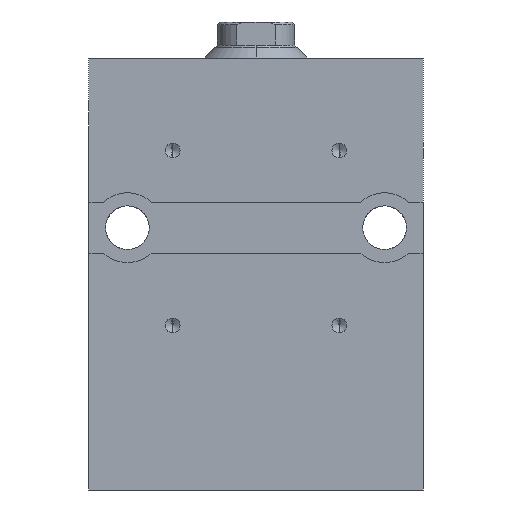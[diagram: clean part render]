
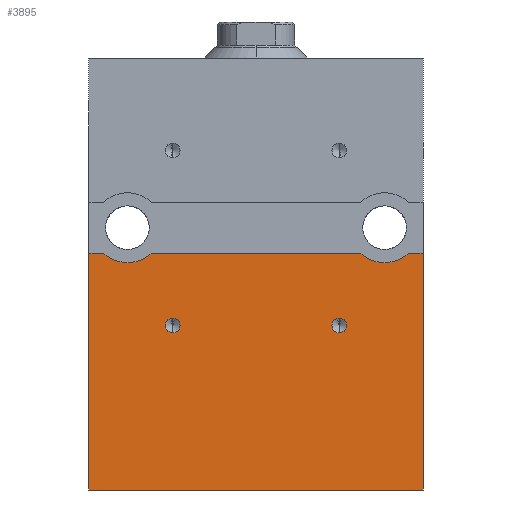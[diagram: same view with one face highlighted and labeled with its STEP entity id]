
A CAD part, left-side view. The second image highlights one B-rep face of the part: STEP entity #3895.
In plain terms, the highlighted planar face has unit normal (-1, 0, 0).
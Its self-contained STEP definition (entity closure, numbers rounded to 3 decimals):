
#33 = VECTOR ( 'NONE', #2863, 1000. ) ;
#40 = DIRECTION ( 'NONE',  ( 0., 0., 1. ) ) ;
#44 = AXIS2_PLACEMENT_3D ( 'NONE', #5454, #662, #3843 ) ;
#76 = CARTESIAN_POINT ( 'NONE',  ( -22.5, 32.5, -91. ) ) ;
#85 = DIRECTION ( 'NONE',  ( 0., -1., 0. ) ) ;
#112 = LINE ( 'NONE', #2810, #5896 ) ;
#255 = AXIS2_PLACEMENT_3D ( 'NONE', #3158, #6822, #5337 ) ;
#512 = PLANE ( 'NONE',  #4930 ) ;
#586 = ORIENTED_EDGE ( 'NONE', *, *, #3817, .F. ) ;
#601 = ORIENTED_EDGE ( 'NONE', *, *, #6843, .F. ) ;
#637 = VERTEX_POINT ( 'NONE', #3309 ) ;
#657 = ORIENTED_EDGE ( 'NONE', *, *, #4316, .F. ) ;
#662 = DIRECTION ( 'NONE',  ( -1., 0., 0. ) ) ;
#671 = VECTOR ( 'NONE', #1657, 1000. ) ;
#717 = AXIS2_PLACEMENT_3D ( 'NONE', #4885, #5371, #2184 ) ;
#745 = CARTESIAN_POINT ( 'NONE',  ( -22.5, 32.5, -45. ) ) ;
#798 = VERTEX_POINT ( 'NONE', #5791 ) ;
#804 = ORIENTED_EDGE ( 'NONE', *, *, #6790, .T. ) ;
#840 = VERTEX_POINT ( 'NONE', #5560 ) ;
#1045 = FACE_BOUND ( 'NONE', #1588, .T. ) ;
#1105 = FACE_OUTER_BOUND ( 'NONE', #1841, .T. ) ;
#1129 = EDGE_CURVE ( 'NONE', #2856, #637, #4915, .T. ) ;
#1199 = VERTEX_POINT ( 'NONE', #6813 ) ;
#1342 = VECTOR ( 'NONE', #85, 1000. ) ;
#1360 = LINE ( 'NONE', #6222, #2607 ) ;
#1459 = DIRECTION ( 'NONE',  ( 0., -1., 0. ) ) ;
#1538 = CARTESIAN_POINT ( 'NONE',  ( -22.5, 25., -40. ) ) ;
#1557 = CARTESIAN_POINT ( 'NONE',  ( -22.5, 32.5, -91. ) ) ;
#1588 = EDGE_LOOP ( 'NONE', ( #4644, #1903 ) ) ;
#1657 = DIRECTION ( 'NONE',  ( 0., 0., 1. ) ) ;
#1742 = CARTESIAN_POINT ( 'NONE',  ( -22.5, 32.5, -45. ) ) ;
#1806 = VERTEX_POINT ( 'NONE', #5526 ) ;
#1841 = EDGE_LOOP ( 'NONE', ( #4962, #5077, #586, #5165, #657, #601, #804, #5430 ) ) ;
#1903 = ORIENTED_EDGE ( 'NONE', *, *, #2749, .F. ) ;
#1927 = CARTESIAN_POINT ( 'NONE',  ( -22.5, -16.2, -57.575 ) ) ;
#1933 = DIRECTION ( 'NONE',  ( 0., 0., 1. ) ) ;
#2058 = AXIS2_PLACEMENT_3D ( 'NONE', #1538, #4607, #3531 ) ;
#2184 = DIRECTION ( 'NONE',  ( 0., 0., 1. ) ) ;
#2259 = CARTESIAN_POINT ( 'NONE',  ( -22.5, 29.609, -45. ) ) ;
#2312 = DIRECTION ( 'NONE',  ( -1., 0., 0. ) ) ;
#2321 = VERTEX_POINT ( 'NONE', #2259 ) ;
#2340 = DIRECTION ( 'NONE',  ( 0., 0., 1. ) ) ;
#2376 = LINE ( 'NONE', #745, #33 ) ;
#2477 = AXIS2_PLACEMENT_3D ( 'NONE', #3537, #3573, #1933 ) ;
#2607 = VECTOR ( 'NONE', #1459, 1000. ) ;
#2625 = CARTESIAN_POINT ( 'NONE',  ( -22.5, 20.391, -45. ) ) ;
#2659 = EDGE_CURVE ( 'NONE', #1199, #3332, #5335, .T. ) ;
#2749 = EDGE_CURVE ( 'NONE', #1806, #3034, #6707, .T. ) ;
#2810 = CARTESIAN_POINT ( 'NONE',  ( -22.5, 32.5, -91. ) ) ;
#2856 = VERTEX_POINT ( 'NONE', #1927 ) ;
#2863 = DIRECTION ( 'NONE',  ( 0., -1., 0. ) ) ;
#2964 = EDGE_CURVE ( 'NONE', #4686, #2321, #5488, .T. ) ;
#3034 = VERTEX_POINT ( 'NONE', #4260 ) ;
#3045 = VERTEX_POINT ( 'NONE', #5884 ) ;
#3158 = CARTESIAN_POINT ( 'NONE',  ( -22.5, -25., -40. ) ) ;
#3176 = CIRCLE ( 'NONE', #44, 1.425 ) ;
#3309 = CARTESIAN_POINT ( 'NONE',  ( -22.5, -16.2, -60.425 ) ) ;
#3329 = LINE ( 'NONE', #76, #671 ) ;
#3332 = VERTEX_POINT ( 'NONE', #5145 ) ;
#3531 = DIRECTION ( 'NONE',  ( 0., 0., -1. ) ) ;
#3537 = CARTESIAN_POINT ( 'NONE',  ( -22.5, -16.2, -59. ) ) ;
#3573 = DIRECTION ( 'NONE',  ( -1., 0., 0. ) ) ;
#3733 = CIRCLE ( 'NONE', #717, 1.425 ) ;
#3817 = EDGE_CURVE ( 'NONE', #4686, #798, #1360, .T. ) ;
#3843 = DIRECTION ( 'NONE',  ( 0., 0., 1. ) ) ;
#3853 = EDGE_CURVE ( 'NONE', #840, #798, #4063, .T. ) ;
#3856 = VECTOR ( 'NONE', #40, 1000. ) ;
#3895 = ADVANCED_FACE ( 'NONE', ( #4697, #1045, #1105 ), #512, .T. ) ;
#3930 = CARTESIAN_POINT ( 'NONE',  ( -22.5, 32.5, -45. ) ) ;
#4063 = CIRCLE ( 'NONE', #255, 6.8 ) ;
#4260 = CARTESIAN_POINT ( 'NONE',  ( -22.5, 16.2, -57.575 ) ) ;
#4316 = EDGE_CURVE ( 'NONE', #5232, #2321, #2376, .T. ) ;
#4340 = ORIENTED_EDGE ( 'NONE', *, *, #4818, .F. ) ;
#4488 = LINE ( 'NONE', #1742, #1342 ) ;
#4607 = DIRECTION ( 'NONE',  ( 1., 0., 0. ) ) ;
#4644 = ORIENTED_EDGE ( 'NONE', *, *, #5202, .F. ) ;
#4686 = VERTEX_POINT ( 'NONE', #2625 ) ;
#4697 = FACE_BOUND ( 'NONE', #4832, .T. ) ;
#4818 = EDGE_CURVE ( 'NONE', #637, #2856, #3176, .T. ) ;
#4824 = CARTESIAN_POINT ( 'NONE',  ( -22.5, -32.5, -91. ) ) ;
#4832 = EDGE_LOOP ( 'NONE', ( #6563, #4340 ) ) ;
#4885 = CARTESIAN_POINT ( 'NONE',  ( -22.5, 16.2, -59. ) ) ;
#4915 = CIRCLE ( 'NONE', #2477, 1.425 ) ;
#4921 = DIRECTION ( 'NONE',  ( 0., -1., 0. ) ) ;
#4930 = AXIS2_PLACEMENT_3D ( 'NONE', #1557, #6355, #6418 ) ;
#4962 = ORIENTED_EDGE ( 'NONE', *, *, #6346, .F. ) ;
#5077 = ORIENTED_EDGE ( 'NONE', *, *, #3853, .T. ) ;
#5095 = CARTESIAN_POINT ( 'NONE',  ( -22.5, 16.2, -59. ) ) ;
#5145 = CARTESIAN_POINT ( 'NONE',  ( -22.5, -32.5, -45. ) ) ;
#5165 = ORIENTED_EDGE ( 'NONE', *, *, #2964, .T. ) ;
#5202 = EDGE_CURVE ( 'NONE', #3034, #1806, #3733, .T. ) ;
#5232 = VERTEX_POINT ( 'NONE', #3930 ) ;
#5335 = LINE ( 'NONE', #4824, #3856 ) ;
#5337 = DIRECTION ( 'NONE',  ( 0., 0., -1. ) ) ;
#5371 = DIRECTION ( 'NONE',  ( -1., 0., 0. ) ) ;
#5430 = ORIENTED_EDGE ( 'NONE', *, *, #2659, .T. ) ;
#5454 = CARTESIAN_POINT ( 'NONE',  ( -22.5, -16.2, -59. ) ) ;
#5488 = CIRCLE ( 'NONE', #2058, 6.8 ) ;
#5526 = CARTESIAN_POINT ( 'NONE',  ( -22.5, 16.2, -60.425 ) ) ;
#5560 = CARTESIAN_POINT ( 'NONE',  ( -22.5, -29.609, -45. ) ) ;
#5791 = CARTESIAN_POINT ( 'NONE',  ( -22.5, -20.391, -45. ) ) ;
#5884 = CARTESIAN_POINT ( 'NONE',  ( -22.5, 32.5, -91. ) ) ;
#5896 = VECTOR ( 'NONE', #4921, 1000. ) ;
#5945 = AXIS2_PLACEMENT_3D ( 'NONE', #5095, #2312, #2340 ) ;
#6222 = CARTESIAN_POINT ( 'NONE',  ( -22.5, 32.5, -45. ) ) ;
#6346 = EDGE_CURVE ( 'NONE', #840, #3332, #4488, .T. ) ;
#6355 = DIRECTION ( 'NONE',  ( -1., 0., 0. ) ) ;
#6418 = DIRECTION ( 'NONE',  ( 0., 0., 1. ) ) ;
#6563 = ORIENTED_EDGE ( 'NONE', *, *, #1129, .F. ) ;
#6707 = CIRCLE ( 'NONE', #5945, 1.425 ) ;
#6790 = EDGE_CURVE ( 'NONE', #3045, #1199, #112, .T. ) ;
#6813 = CARTESIAN_POINT ( 'NONE',  ( -22.5, -32.5, -91. ) ) ;
#6822 = DIRECTION ( 'NONE',  ( 1., 0., 0. ) ) ;
#6843 = EDGE_CURVE ( 'NONE', #3045, #5232, #3329, .T. ) ;
